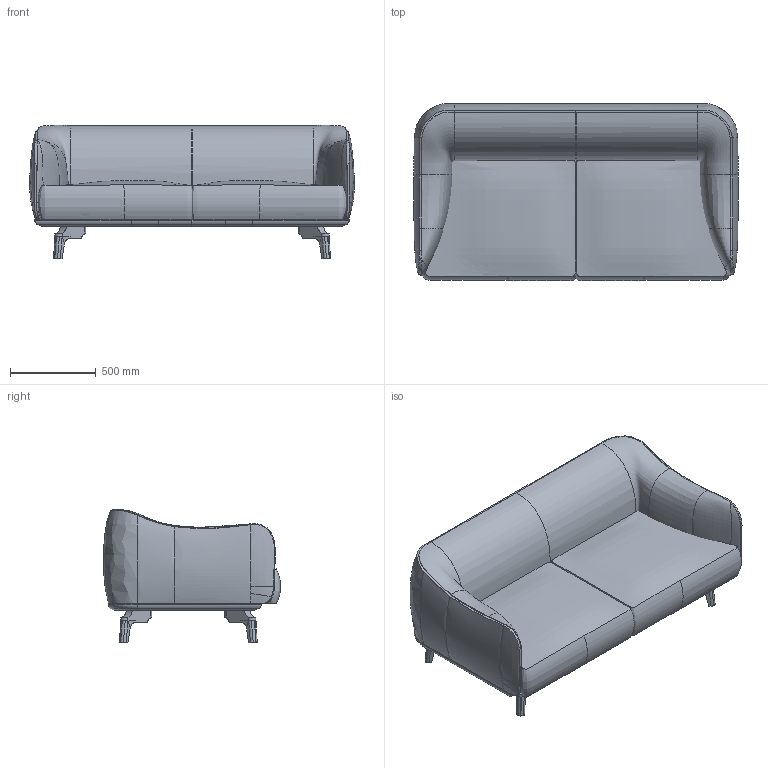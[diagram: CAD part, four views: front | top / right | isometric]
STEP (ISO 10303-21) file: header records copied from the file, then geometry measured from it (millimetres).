
FILE_DESCRIPTION(/* description */ (''),/* implementation_level */ '2;1');
FILE_NAME(/* name */ 'C:\Users\ronnie\Desktop\59000 DRIVE cm185.stp',/* time_stamp */ '2016-07-25T10:28:13+02:00',/* author */ ('ronnie'),/* organization */ (''),/* preprocessor_version */ 'ST-DEVELOPER v16.5',/* originating_system */ 'AutoCAD Mechanical',/* authorisation */ '');
FILE_SCHEMA (('AUTOMOTIVE_DESIGN { 1 0 10303 214 3 1 1 }'));
Length unit declared in the file: millimetre
Products named in the file (1): Product
Bounding box: 1890.51 x 1029.37 x 774.25 mm (x, y, z)
Volume: 301653809.6 mm3; surface area: 12215809.2 mm2
Topology: 12 solids, 14 shells, 376 faces, 934 edges, 574 vertices
Faces by surface type: bspline 156, cylinder 104, plane 102, torus 8, cone 6
Entity records: 87643 total; most frequent: CARTESIAN_POINT 79554, ORIENTED_EDGE 1794, DIRECTION 1362, EDGE_CURVE 924, VERTEX_POINT 574, AXIS2_PLACEMENT_3D 471, LINE 420, VECTOR 420
